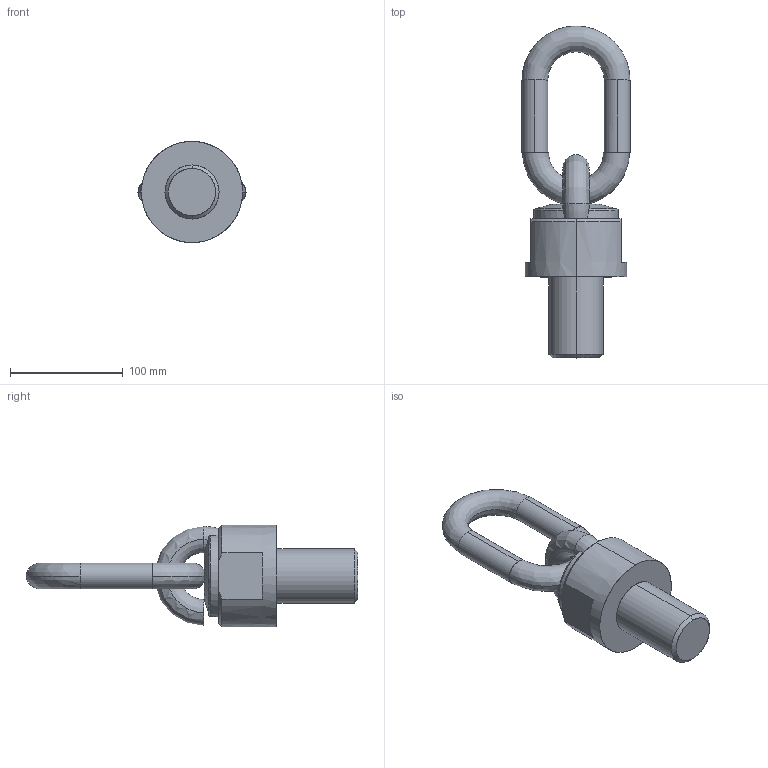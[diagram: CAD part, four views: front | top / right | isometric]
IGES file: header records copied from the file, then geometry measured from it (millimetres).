
Start section: START RECORD GO HERE.
Global section: file name: C800X1254872.igs; native system: DASSAULT SYSTEMES CATIA V5 R20 - www.3ds.com; preprocessor: CATIA Version 5 Release 20 ; author: Utente; organization: NB04-ASUS; date: 20200412.221648; units: millimetre
Bounding box: 96 x 295 x 90 mm (x, y, z)
Surface area: 71567.1 mm2 (no closed solid volume)
Topology: 0 solids, 0 shells, 42 faces, 232 edges, 232 vertices
Faces by surface type: revolution 30, extrusion 12
